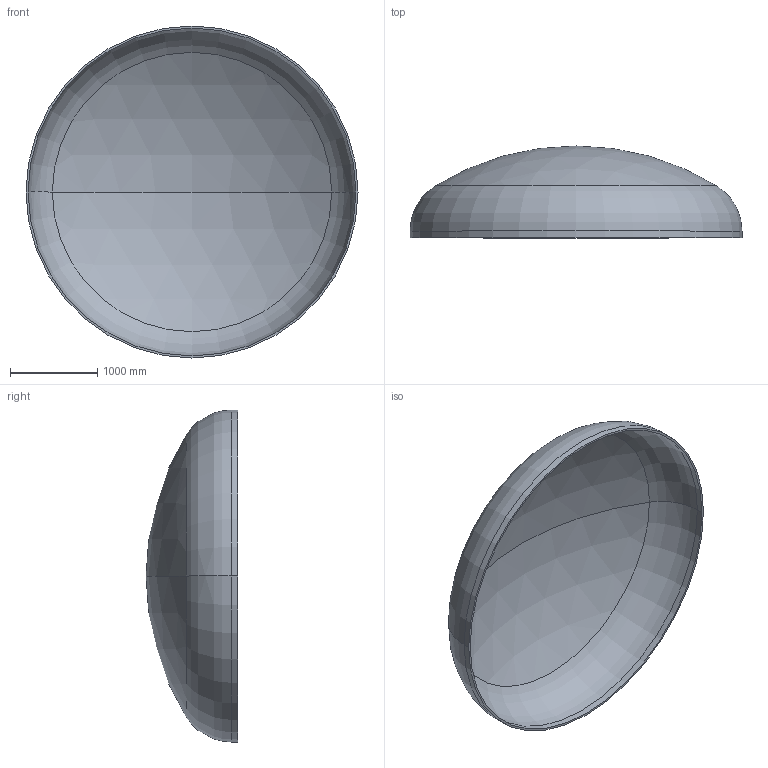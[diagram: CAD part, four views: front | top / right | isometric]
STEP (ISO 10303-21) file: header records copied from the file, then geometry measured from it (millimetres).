
FILE_DESCRIPTION (( 'STEP AP203' ), '1' );
FILE_NAME ('DIN 28013 Korbbogenform_-_Boden DIN 28013 - 3800 x 75 - I - s=24.step', '2016-07-01T21:11:23', ( '' ), ( '' ), 'SwSTEP 2.0', 'SolidWorks 2013', '' );
FILE_SCHEMA (( 'CONFIG_CONTROL_DESIGN' ));
Length unit declared in the file: millimetre
Products named in the file (1): DIN 28013 Korbbogenform_-_Boden DIN 28013 - 3800 x 75 - I - s=24
Bounding box: 3800 x 1050.86 x 3800 mm (x, y, z)
Volume: 395176113.6 mm3; surface area: 33217240.1 mm2
Topology: 1 solids, 1 shells, 13 faces, 24 edges, 14 vertices
Faces by surface type: torus 4, cylinder 4, sphere 4, plane 1
Entity records: 407 total; most frequent: DIRECTION 72, CARTESIAN_POINT 52, ORIENTED_EDGE 48, AXIS2_PLACEMENT_3D 34, EDGE_CURVE 24, CIRCLE 20, EDGE_LOOP 14, VERTEX_POINT 14
